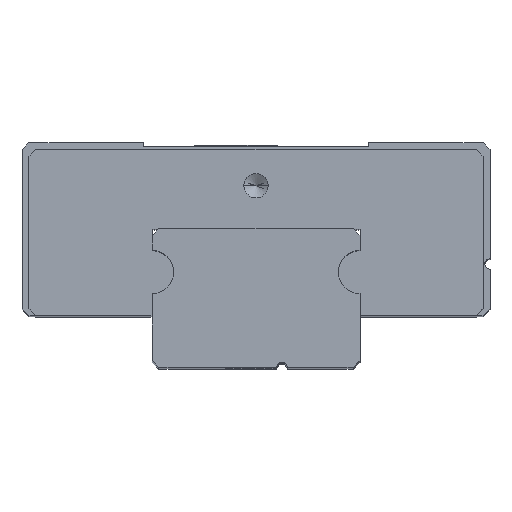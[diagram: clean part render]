
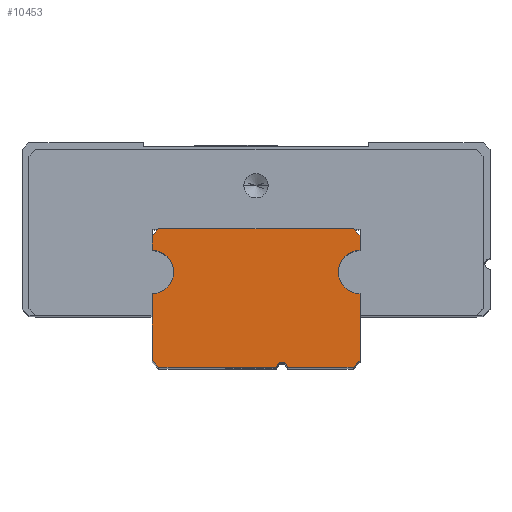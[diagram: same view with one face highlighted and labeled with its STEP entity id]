
A CAD part, top view. The second image highlights one B-rep face of the part: STEP entity #10453.
In plain terms, the highlighted planar face has unit normal (0, 0, 1).
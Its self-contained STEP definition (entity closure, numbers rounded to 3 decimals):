
#56 = EDGE_CURVE ( 'NONE', #1131, #4891, #1601, .T. ) ;
#105 = VERTEX_POINT ( 'NONE', #9955 ) ;
#116 = EDGE_CURVE ( 'NONE', #8292, #1131, #8275, .T. ) ;
#218 = AXIS2_PLACEMENT_3D ( 'NONE', #10993, #4027, #3287 ) ;
#305 = DIRECTION ( 'NONE',  ( 0., 0., 1. ) ) ;
#407 = VERTEX_POINT ( 'NONE', #7322 ) ;
#466 = EDGE_CURVE ( 'NONE', #7626, #407, #2158, .T. ) ;
#663 = AXIS2_PLACEMENT_3D ( 'NONE', #5758, #8328, #2226 ) ;
#857 = VERTEX_POINT ( 'NONE', #8849 ) ;
#932 = EDGE_CURVE ( 'NONE', #2920, #4936, #5354, .T. ) ;
#952 = DIRECTION ( 'NONE',  ( 0.707, 0.707, 0. ) ) ;
#1020 = EDGE_CURVE ( 'NONE', #10343, #7743, #3152, .T. ) ;
#1061 = DIRECTION ( 'NONE',  ( 0., 0., 1. ) ) ;
#1078 = ORIENTED_EDGE ( 'NONE', *, *, #5368, .F. ) ;
#1092 = VERTEX_POINT ( 'NONE', #2494 ) ;
#1096 = ORIENTED_EDGE ( 'NONE', *, *, #9970, .F. ) ;
#1131 = VERTEX_POINT ( 'NONE', #4567 ) ;
#1142 = LINE ( 'NONE', #4568, #5767 ) ;
#1158 = EDGE_CURVE ( 'NONE', #10343, #105, #2807, .T. ) ;
#1234 = VECTOR ( 'NONE', #8990, 1000. ) ;
#1351 = CARTESIAN_POINT ( 'NONE',  ( -5.6, 0., 35. ) ) ;
#1500 = VERTEX_POINT ( 'NONE', #4039 ) ;
#1601 = CIRCLE ( 'NONE', #2142, 1.25 ) ;
#1618 = EDGE_CURVE ( 'NONE', #2920, #105, #8186, .T. ) ;
#1624 = ORIENTED_EDGE ( 'NONE', *, *, #1158, .F. ) ;
#1834 = VERTEX_POINT ( 'NONE', #10920 ) ;
#1957 = DIRECTION ( 'NONE',  ( -1., 0., 0. ) ) ;
#2142 = AXIS2_PLACEMENT_3D ( 'NONE', #8170, #1061, #1957 ) ;
#2158 = LINE ( 'NONE', #5583, #1234 ) ;
#2210 = VECTOR ( 'NONE', #2816, 1000. ) ;
#2226 = DIRECTION ( 'NONE',  ( -1., 0., 0. ) ) ;
#2239 = CARTESIAN_POINT ( 'NONE',  ( 1.2, 0., 35. ) ) ;
#2240 = ORIENTED_EDGE ( 'NONE', *, *, #4169, .T. ) ;
#2290 = ORIENTED_EDGE ( 'NONE', *, *, #56, .F. ) ;
#2494 = CARTESIAN_POINT ( 'NONE',  ( 5.6, 8., 35. ) ) ;
#2558 = ORIENTED_EDGE ( 'NONE', *, *, #116, .F. ) ;
#2640 = ORIENTED_EDGE ( 'NONE', *, *, #2784, .T. ) ;
#2784 = EDGE_CURVE ( 'NONE', #8292, #1092, #4109, .T. ) ;
#2807 = LINE ( 'NONE', #7265, #9139 ) ;
#2816 = DIRECTION ( 'NONE',  ( -1., 0., 0. ) ) ;
#2920 = VERTEX_POINT ( 'NONE', #7699 ) ;
#3058 = ORIENTED_EDGE ( 'NONE', *, *, #8346, .T. ) ;
#3152 = CIRCLE ( 'NONE', #663, 0.3 ) ;
#3181 = DIRECTION ( 'NONE',  ( -1., 0., 0. ) ) ;
#3287 = DIRECTION ( 'NONE',  ( 0., -1., 0. ) ) ;
#3344 = DIRECTION ( 'NONE',  ( 0., 0., 1. ) ) ;
#3429 = DIRECTION ( 'NONE',  ( -0.707, -0.707, 0. ) ) ;
#3449 = LINE ( 'NONE', #7892, #10825 ) ;
#3453 = VECTOR ( 'NONE', #4897, 1000. ) ;
#4027 = DIRECTION ( 'NONE',  ( 0., 0., -1. ) ) ;
#4039 = CARTESIAN_POINT ( 'NONE',  ( -6., 6.75, 35. ) ) ;
#4044 = CARTESIAN_POINT ( 'NONE',  ( -6., 4.25, 35. ) ) ;
#4109 = LINE ( 'NONE', #5685, #3453 ) ;
#4169 = EDGE_CURVE ( 'NONE', #1092, #857, #9181, .T. ) ;
#4192 = FACE_OUTER_BOUND ( 'NONE', #9722, .T. ) ;
#4361 = DIRECTION ( 'NONE',  ( -1., 0., 0. ) ) ;
#4455 = CARTESIAN_POINT ( 'NONE',  ( 6., 5.5, 35. ) ) ;
#4522 = DIRECTION ( 'NONE',  ( 0., 1., 0. ) ) ;
#4567 = CARTESIAN_POINT ( 'NONE',  ( 6., 6.75, 35. ) ) ;
#4568 = CARTESIAN_POINT ( 'NONE',  ( -6., 7.6, 35. ) ) ;
#4723 = DIRECTION ( 'NONE',  ( 0.707, -0.707, 0. ) ) ;
#4878 = ORIENTED_EDGE ( 'NONE', *, *, #1618, .T. ) ;
#4891 = VERTEX_POINT ( 'NONE', #7428 ) ;
#4897 = DIRECTION ( 'NONE',  ( -0.707, 0.707, 0. ) ) ;
#4936 = VERTEX_POINT ( 'NONE', #4044 ) ;
#5112 = VECTOR ( 'NONE', #3181, 1000. ) ;
#5177 = CIRCLE ( 'NONE', #9292, 1.25 ) ;
#5354 = LINE ( 'NONE', #9779, #10144 ) ;
#5368 = EDGE_CURVE ( 'NONE', #4936, #1500, #9289, .T. ) ;
#5396 = DIRECTION ( 'NONE',  ( -1., 0., 0. ) ) ;
#5583 = CARTESIAN_POINT ( 'NONE',  ( 6., 0., 35. ) ) ;
#5585 = CARTESIAN_POINT ( 'NONE',  ( 1.5, 0., 35. ) ) ;
#5678 = ORIENTED_EDGE ( 'NONE', *, *, #8420, .F. ) ;
#5685 = CARTESIAN_POINT ( 'NONE',  ( 5.6, 8., 35. ) ) ;
#5720 = VECTOR ( 'NONE', #9845, 1000. ) ;
#5758 = CARTESIAN_POINT ( 'NONE',  ( 1.5, 0., 35. ) ) ;
#5767 = VECTOR ( 'NONE', #3429, 1000. ) ;
#5989 = VECTOR ( 'NONE', #9509, 1000. ) ;
#6055 = LINE ( 'NONE', #8511, #5989 ) ;
#6076 = AXIS2_PLACEMENT_3D ( 'NONE', #9455, #3344, #4361 ) ;
#6103 = EDGE_CURVE ( 'NONE', #4891, #7626, #5177, .T. ) ;
#7235 = CARTESIAN_POINT ( 'NONE',  ( 6., 4.25, 35. ) ) ;
#7265 = CARTESIAN_POINT ( 'NONE',  ( 1.5, 0., 35. ) ) ;
#7322 = CARTESIAN_POINT ( 'NONE',  ( 6., 0.4, 35. ) ) ;
#7428 = CARTESIAN_POINT ( 'NONE',  ( 4.75, 5.5, 35. ) ) ;
#7578 = CARTESIAN_POINT ( 'NONE',  ( 6., 7.6, 35. ) ) ;
#7626 = VERTEX_POINT ( 'NONE', #7235 ) ;
#7699 = CARTESIAN_POINT ( 'NONE',  ( -6., 0.4, 35. ) ) ;
#7743 = VERTEX_POINT ( 'NONE', #10513 ) ;
#7892 = CARTESIAN_POINT ( 'NONE',  ( 6., 0.4, 35. ) ) ;
#8075 = EDGE_CURVE ( 'NONE', #857, #10389, #1142, .T. ) ;
#8170 = CARTESIAN_POINT ( 'NONE',  ( 6., 5.5, 35. ) ) ;
#8186 = LINE ( 'NONE', #1351, #9320 ) ;
#8207 = ORIENTED_EDGE ( 'NONE', *, *, #8075, .T. ) ;
#8275 = LINE ( 'NONE', #9573, #5720 ) ;
#8292 = VERTEX_POINT ( 'NONE', #7578 ) ;
#8328 = DIRECTION ( 'NONE',  ( 0., 0., -1. ) ) ;
#8346 = EDGE_CURVE ( 'NONE', #1834, #407, #3449, .T. ) ;
#8387 = PLANE ( 'NONE',  #218 ) ;
#8420 = EDGE_CURVE ( 'NONE', #1500, #10389, #6055, .T. ) ;
#8511 = CARTESIAN_POINT ( 'NONE',  ( -6., 0., 35. ) ) ;
#8800 = ORIENTED_EDGE ( 'NONE', *, *, #1020, .T. ) ;
#8849 = CARTESIAN_POINT ( 'NONE',  ( -5.6, 8., 35. ) ) ;
#8880 = LINE ( 'NONE', #5585, #2210 ) ;
#8990 = DIRECTION ( 'NONE',  ( 0., -1., 0. ) ) ;
#9073 = ORIENTED_EDGE ( 'NONE', *, *, #6103, .F. ) ;
#9139 = VECTOR ( 'NONE', #5396, 1000. ) ;
#9181 = LINE ( 'NONE', #10079, #5112 ) ;
#9289 = CIRCLE ( 'NONE', #6076, 1.25 ) ;
#9292 = AXIS2_PLACEMENT_3D ( 'NONE', #4455, #305, #9765 ) ;
#9320 = VECTOR ( 'NONE', #4723, 1000. ) ;
#9455 = CARTESIAN_POINT ( 'NONE',  ( -6., 5.5, 35. ) ) ;
#9509 = DIRECTION ( 'NONE',  ( 0., 1., 0. ) ) ;
#9573 = CARTESIAN_POINT ( 'NONE',  ( 6., 0., 35. ) ) ;
#9722 = EDGE_LOOP ( 'NONE', ( #10881, #4878, #1624, #8800, #1096, #3058, #10244, #9073, #2290, #2558, #2640, #2240, #8207, #5678, #1078 ) ) ;
#9765 = DIRECTION ( 'NONE',  ( -1., 0., 0. ) ) ;
#9779 = CARTESIAN_POINT ( 'NONE',  ( -6., 0., 35. ) ) ;
#9845 = DIRECTION ( 'NONE',  ( 0., -1., 0. ) ) ;
#9955 = CARTESIAN_POINT ( 'NONE',  ( -5.6, 0., 35. ) ) ;
#9970 = EDGE_CURVE ( 'NONE', #1834, #7743, #8880, .T. ) ;
#10079 = CARTESIAN_POINT ( 'NONE',  ( 6., 8., 35. ) ) ;
#10144 = VECTOR ( 'NONE', #4522, 1000. ) ;
#10244 = ORIENTED_EDGE ( 'NONE', *, *, #466, .F. ) ;
#10343 = VERTEX_POINT ( 'NONE', #2239 ) ;
#10389 = VERTEX_POINT ( 'NONE', #10880 ) ;
#10453 = ADVANCED_FACE ( 'NONE', ( #4192 ), #8387, .F. ) ;
#10513 = CARTESIAN_POINT ( 'NONE',  ( 1.8, 0., 35. ) ) ;
#10825 = VECTOR ( 'NONE', #952, 1000. ) ;
#10880 = CARTESIAN_POINT ( 'NONE',  ( -6., 7.6, 35. ) ) ;
#10881 = ORIENTED_EDGE ( 'NONE', *, *, #932, .F. ) ;
#10920 = CARTESIAN_POINT ( 'NONE',  ( 5.6, 0., 35. ) ) ;
#10993 = CARTESIAN_POINT ( 'NONE',  ( 1.5, 0., 35. ) ) ;
